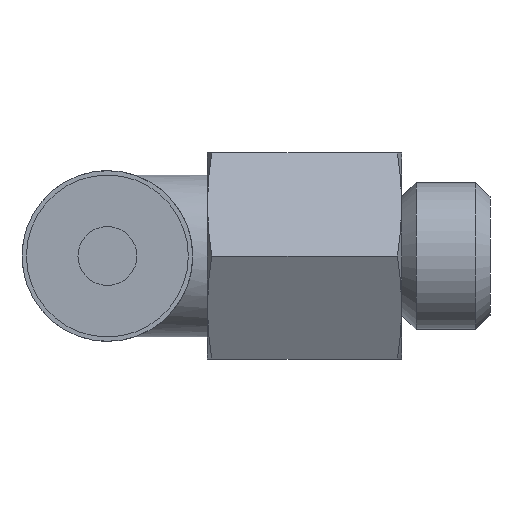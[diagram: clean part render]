
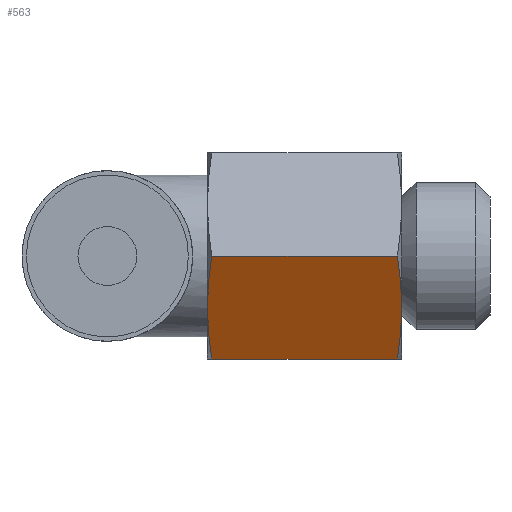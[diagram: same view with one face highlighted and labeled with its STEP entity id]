
A CAD part, left-side view. The second image highlights one B-rep face of the part: STEP entity #563.
In plain terms, the highlighted planar face has unit normal (-0.866, 0, -0.5).
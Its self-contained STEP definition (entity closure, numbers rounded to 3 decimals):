
#20=LINE('',#995,#26);
#21=LINE('',#997,#27);
#26=VECTOR('',#749,1000.);
#27=VECTOR('',#750,1000.);
#34=PLANE('',#635);
#76=B_SPLINE_CURVE_WITH_KNOTS('',3,(#916,#917,#918,#919),.UNSPECIFIED.,
 .F.,.F.,(4,4),(0.,0.002),.UNSPECIFIED.);
#77=B_SPLINE_CURVE_WITH_KNOTS('',3,(#925,#926,#927,#928),.UNSPECIFIED.,
 .F.,.F.,(4,4),(0.002,0.004),.UNSPECIFIED.);
#87=B_SPLINE_CURVE_WITH_KNOTS('',3,(#999,#1000,#1001,#1002),
 .UNSPECIFIED.,.F.,.F.,(4,4),(0.002,0.004),
 .UNSPECIFIED.);
#88=B_SPLINE_CURVE_WITH_KNOTS('',3,(#1004,#1005,#1006,#1007),
 .UNSPECIFIED.,.F.,.F.,(4,4),(0.,0.002),
 .UNSPECIFIED.);
#142=ORIENTED_EDGE('',*,*,#282,.T.);
#143=ORIENTED_EDGE('',*,*,#264,.F.);
#144=ORIENTED_EDGE('',*,*,#261,.F.);
#145=ORIENTED_EDGE('',*,*,#283,.F.);
#146=ORIENTED_EDGE('',*,*,#284,.F.);
#147=ORIENTED_EDGE('',*,*,#285,.F.);
#261=EDGE_CURVE('',#336,#337,#76,.T.);
#264=EDGE_CURVE('',#337,#339,#77,.T.);
#282=EDGE_CURVE('',#351,#339,#20,.T.);
#283=EDGE_CURVE('',#352,#336,#21,.T.);
#284=EDGE_CURVE('',#353,#352,#87,.T.);
#285=EDGE_CURVE('',#351,#353,#88,.T.);
#336=VERTEX_POINT('',#915);
#337=VERTEX_POINT('',#920);
#339=VERTEX_POINT('',#929);
#351=VERTEX_POINT('',#996);
#352=VERTEX_POINT('',#998);
#353=VERTEX_POINT('',#1003);
#429=EDGE_LOOP('',(#142,#143,#144,#145,#146,#147));
#493=FACE_BOUND('',#429,.T.);
#563=ADVANCED_FACE('',(#493),#34,.F.);
#635=AXIS2_PLACEMENT_3D('',#994,#747,#748);
#747=DIRECTION('',(0.866,0.,0.5));
#748=DIRECTION('',(0.5,0.,-0.866));
#749=DIRECTION('',(0.,-1.,0.));
#750=DIRECTION('',(0.,-1.,0.));
#915=CARTESIAN_POINT('',(-4.041,0.145,0.));
#916=CARTESIAN_POINT('',(-4.041,0.145,0.));
#917=CARTESIAN_POINT('',(-3.705,0.055,-0.583));
#918=CARTESIAN_POINT('',(-3.368,0.,-1.167));
#919=CARTESIAN_POINT('',(-3.031,0.,-1.75));
#920=CARTESIAN_POINT('',(-3.031,0.,-1.75));
#925=CARTESIAN_POINT('',(-3.031,0.,-1.75));
#926=CARTESIAN_POINT('',(-2.694,0.,-2.333));
#927=CARTESIAN_POINT('',(-2.358,0.055,-2.917));
#928=CARTESIAN_POINT('',(-2.021,0.145,-3.5));
#929=CARTESIAN_POINT('',(-2.021,0.145,-3.5));
#994=CARTESIAN_POINT('',(-2.021,6.6,-3.5));
#995=CARTESIAN_POINT('',(-2.021,6.6,-3.5));
#996=CARTESIAN_POINT('',(-2.021,6.455,-3.5));
#997=CARTESIAN_POINT('',(-4.041,6.6,0.));
#998=CARTESIAN_POINT('',(-4.041,6.455,0.));
#999=CARTESIAN_POINT('',(-3.031,6.6,-1.75));
#1000=CARTESIAN_POINT('',(-3.368,6.6,-1.167));
#1001=CARTESIAN_POINT('',(-3.705,6.545,-0.583));
#1002=CARTESIAN_POINT('',(-4.041,6.455,0.));
#1003=CARTESIAN_POINT('',(-3.031,6.6,-1.75));
#1004=CARTESIAN_POINT('',(-2.021,6.455,-3.5));
#1005=CARTESIAN_POINT('',(-2.358,6.545,-2.917));
#1006=CARTESIAN_POINT('',(-2.694,6.6,-2.333));
#1007=CARTESIAN_POINT('',(-3.031,6.6,-1.75));
